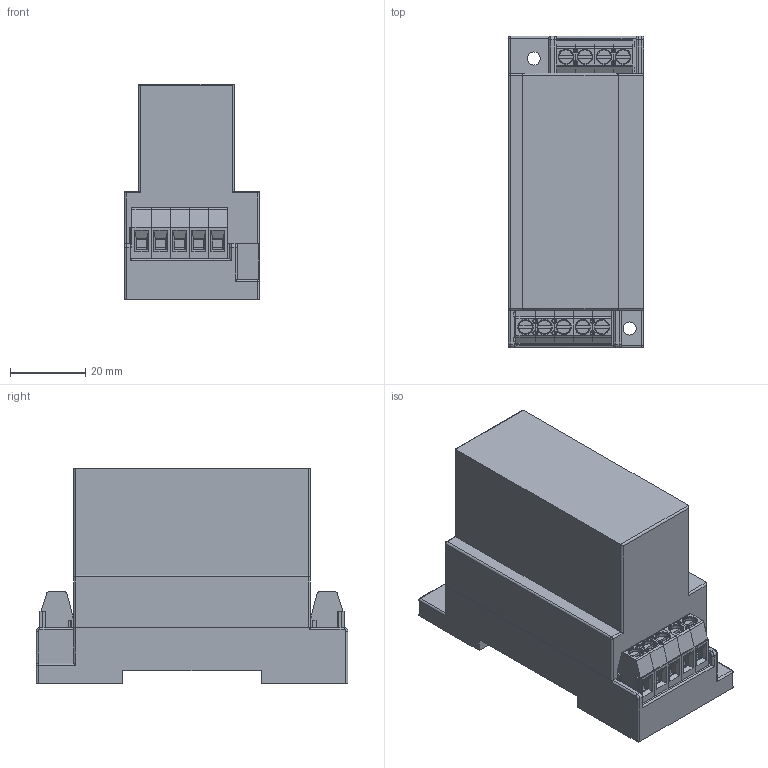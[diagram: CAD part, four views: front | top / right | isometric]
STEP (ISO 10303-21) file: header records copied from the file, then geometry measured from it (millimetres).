
FILE_DESCRIPTION(/* description */ ('Alibre Inc.'),/* implementation_level */ '2;1');
FILE_NAME(/* name */ 'export0',/* time_stamp */ '2013-08-12T08:59:32-06:00',/* author */ (''),/* organization */ (''),/* preprocessor_version */ 'ST-DEVELOPER v14',/* originating_system */ 'Alibre',/* authorisation */ '');
FILE_SCHEMA (('ALIBRE_SCHEMA','CONFIG_CONTROL_DESIGN'));
Length unit declared in the file: centimetre
Products named in the file (8): ID_1; 1; 2; 3
Bounding box: 36.04 x 83 x 57.5 mm (x, y, z)
Volume: 118551.9 mm3; surface area: 23857.5 mm2
Topology: 10 solids, 10 shells, 1484 faces, 4071 edges, 2648 vertices
Faces by surface type: plane 861, cylinder 393, bspline 108, torus 80, cone 38, sphere 4
Full cylindrical faces by diameter (mm): 3.5 x2
Entity records: 65862 total; most frequent: CARTESIAN_POINT 18831, ORIENTED_EDGE 8938, DIRECTION 7154, EDGE_CURVE 4469, VECTOR 3258, LINE 3195, VERTEX_POINT 2912, AXIS2_PLACEMENT_3D 2465
